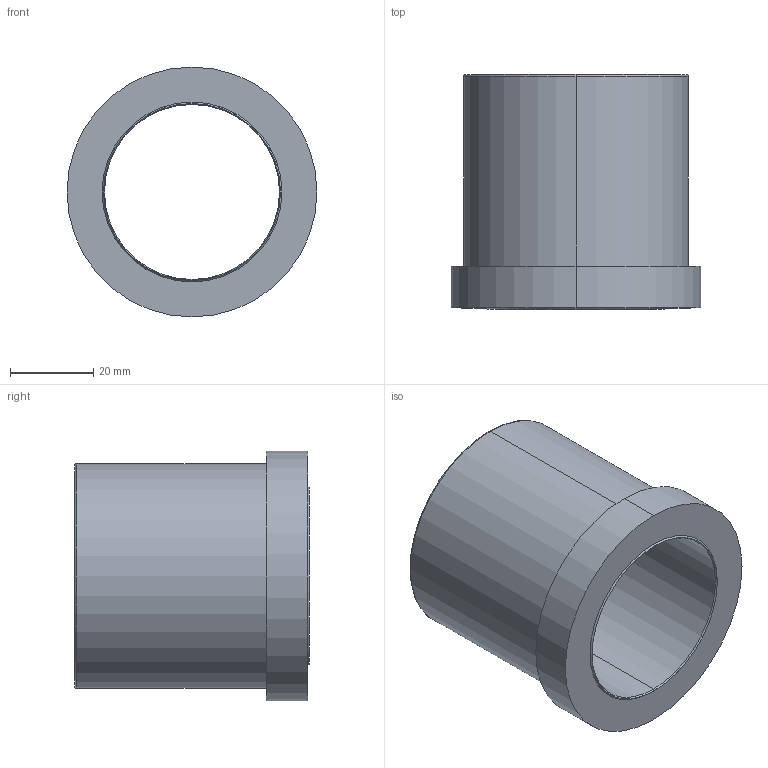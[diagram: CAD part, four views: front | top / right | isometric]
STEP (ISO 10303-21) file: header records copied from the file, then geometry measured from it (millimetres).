
FILE_DESCRIPTION (( 'STEP AP214' ), '1' );
FILE_NAME ('BR11W 42 x 56.STEP', '2020-07-16T11:31:29', ( 'August' ), ( '' ), 'SwSTEP 2.0', 'SolidWorks 2018', '' );
FILE_SCHEMA (( 'AUTOMOTIVE_DESIGN' ));
Length unit declared in the file: millimetre
Products named in the file (1): BR11W 42 x 56
Bounding box: 60 x 56.36 x 60 mm (x, y, z)
Volume: 56028.5 mm3; surface area: 19932.5 mm2
Topology: 1 solids, 1 shells, 17 faces, 34 edges, 20 vertices
Faces by surface type: cone 6, cylinder 6, plane 3, torus 2
Entity records: 484 total; most frequent: DIRECTION 92, CARTESIAN_POINT 72, ORIENTED_EDGE 68, AXIS2_PLACEMENT_3D 40, EDGE_CURVE 34, CIRCLE 22, VERTEX_POINT 20, EDGE_LOOP 20
